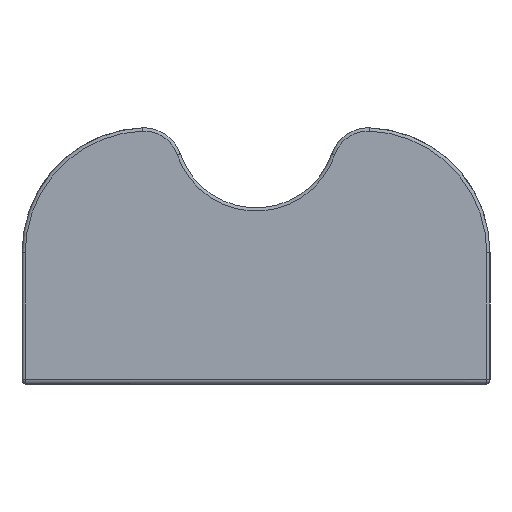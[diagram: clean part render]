
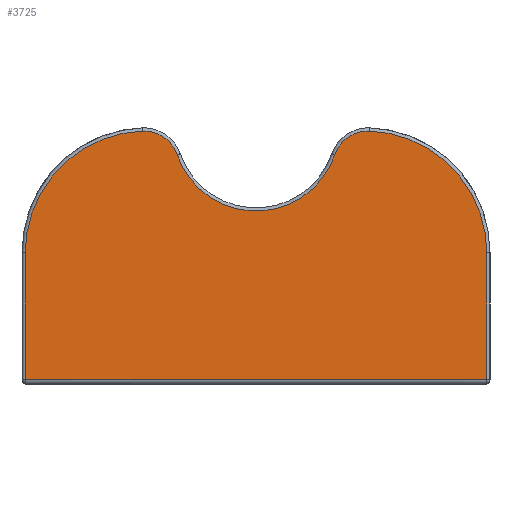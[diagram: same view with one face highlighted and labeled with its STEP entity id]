
A CAD part, left-side view. The second image highlights one B-rep face of the part: STEP entity #3725.
In plain terms, the highlighted planar face has unit normal (-1, 0, 0).
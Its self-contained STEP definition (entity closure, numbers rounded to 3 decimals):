
#50=PLANE('',#4281);
#469=FACE_OUTER_BOUND('',#717,.T.);
#717=EDGE_LOOP('',(#3279,#3280,#3281,#3282,#3283,#3284,#3285,#3286));
#1000=CIRCLE('',#4216,19.);
#1003=CIRCLE('',#4220,5.5);
#1006=CIRCLE('',#4224,13.);
#1009=CIRCLE('',#4228,5.5);
#1012=CIRCLE('',#4232,19.);
#1154=LINE('',#8305,#1324);
#1156=LINE('',#8341,#1326);
#1195=LINE('',#8529,#1365);
#1324=VECTOR('',#5328,10.);
#1326=VECTOR('',#5374,10.);
#1365=VECTOR('',#5503,10.);
#1696=VERTEX_POINT('',#8296);
#1699=VERTEX_POINT('',#8303);
#1701=VERTEX_POINT('',#8309);
#1703=VERTEX_POINT('',#8315);
#1705=VERTEX_POINT('',#8321);
#1707=VERTEX_POINT('',#8327);
#1709=VERTEX_POINT('',#8333);
#1711=VERTEX_POINT('',#8339);
#2206=EDGE_CURVE('',#1699,#1696,#1154,.T.);
#2209=EDGE_CURVE('',#1701,#1699,#1000,.T.);
#2212=EDGE_CURVE('',#1703,#1701,#1003,.T.);
#2215=EDGE_CURVE('',#1705,#1703,#1006,.T.);
#2218=EDGE_CURVE('',#1707,#1705,#1009,.T.);
#2221=EDGE_CURVE('',#1709,#1707,#1012,.T.);
#2224=EDGE_CURVE('',#1711,#1709,#1156,.T.);
#2287=EDGE_CURVE('',#1696,#1711,#1195,.T.);
#3279=ORIENTED_EDGE('',*,*,#2224,.F.);
#3280=ORIENTED_EDGE('',*,*,#2287,.F.);
#3281=ORIENTED_EDGE('',*,*,#2206,.F.);
#3282=ORIENTED_EDGE('',*,*,#2209,.F.);
#3283=ORIENTED_EDGE('',*,*,#2212,.F.);
#3284=ORIENTED_EDGE('',*,*,#2215,.F.);
#3285=ORIENTED_EDGE('',*,*,#2218,.F.);
#3286=ORIENTED_EDGE('',*,*,#2221,.F.);
#3725=ADVANCED_FACE('',(#469),#50,.T.);
#4216=AXIS2_PLACEMENT_3D('',#8311,#5334,#5335);
#4220=AXIS2_PLACEMENT_3D('',#8317,#5342,#5343);
#4224=AXIS2_PLACEMENT_3D('',#8323,#5350,#5351);
#4228=AXIS2_PLACEMENT_3D('',#8329,#5358,#5359);
#4232=AXIS2_PLACEMENT_3D('',#8335,#5366,#5367);
#4281=AXIS2_PLACEMENT_3D('',#8530,#5504,#5505);
#5328=DIRECTION('',(0.,0.,-1.));
#5334=DIRECTION('center_axis',(1.,0.,0.));
#5335=DIRECTION('ref_axis',(0.,-0.72,0.694));
#5342=DIRECTION('center_axis',(1.,0.,0.));
#5343=DIRECTION('ref_axis',(0.,0.566,0.824));
#5350=DIRECTION('center_axis',(-1.,0.,0.));
#5351=DIRECTION('ref_axis',(0.,0.,-1.));
#5358=DIRECTION('center_axis',(1.,0.,0.));
#5359=DIRECTION('ref_axis',(0.,-0.566,0.824));
#5366=DIRECTION('center_axis',(1.,0.,0.));
#5367=DIRECTION('ref_axis',(0.,0.72,0.694));
#5374=DIRECTION('',(0.,0.,1.));
#5503=DIRECTION('',(0.,1.,0.));
#5504=DIRECTION('center_axis',(-1.,0.,0.));
#5505=DIRECTION('ref_axis',(0.,-1.,0.));
#8296=CARTESIAN_POINT('',(0.,-72.5,0.75));
#8303=CARTESIAN_POINT('',(0.,-72.5,20.5));
#8305=CARTESIAN_POINT('',(0.,-72.5,0.));
#8309=CARTESIAN_POINT('',(0.,-54.199,39.487));
#8311=CARTESIAN_POINT('Origin',(0.,-53.5,20.5));
#8315=CARTESIAN_POINT('',(0.,-48.795,35.777));
#8317=CARTESIAN_POINT('Origin',(0.,-53.997,33.991));
#8321=CARTESIAN_POINT('',(0.,-24.205,35.777));
#8323=CARTESIAN_POINT('Origin',(0.,-36.5,40.));
#8327=CARTESIAN_POINT('',(0.,-18.801,39.487));
#8329=CARTESIAN_POINT('Origin',(0.,-19.003,33.991));
#8333=CARTESIAN_POINT('',(0.,-0.5,20.5));
#8335=CARTESIAN_POINT('Origin',(0.,-19.5,20.5));
#8339=CARTESIAN_POINT('',(0.,-0.5,0.75));
#8341=CARTESIAN_POINT('',(0.,-0.5,0.));
#8529=CARTESIAN_POINT('',(0.,-18.25,0.75));
#8530=CARTESIAN_POINT('Origin',(0.,0.,0.));
